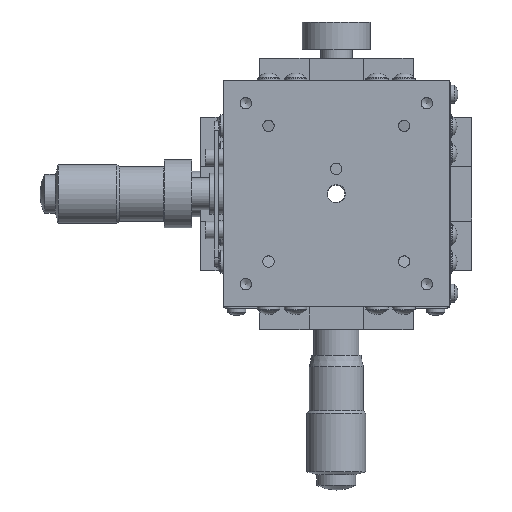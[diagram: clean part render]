
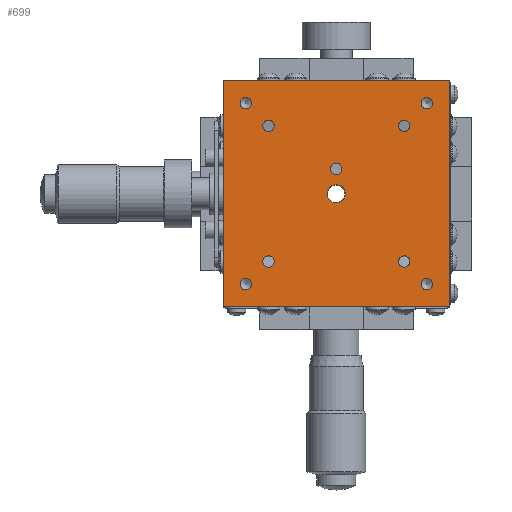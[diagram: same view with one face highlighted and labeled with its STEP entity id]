
A CAD part, top view. The second image highlights one B-rep face of the part: STEP entity #699.
In plain terms, the highlighted planar face has unit normal (0, 0, 1).
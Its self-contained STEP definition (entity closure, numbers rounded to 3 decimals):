
#699 = ADVANCED_FACE( '', ( #1743, #1744, #1745, #1746, #1747, #1748, #1749, #1750, #1751, #1752, #1753 ), #1754, .T. );
#1743 = FACE_BOUND( '', #2995, .T. );
#1744 = FACE_BOUND( '', #2996, .T. );
#1745 = FACE_BOUND( '', #2997, .T. );
#1746 = FACE_BOUND( '', #2998, .T. );
#1747 = FACE_BOUND( '', #2999, .T. );
#1748 = FACE_BOUND( '', #3000, .T. );
#1749 = FACE_BOUND( '', #3001, .T. );
#1750 = FACE_BOUND( '', #3002, .T. );
#1751 = FACE_BOUND( '', #3003, .T. );
#1752 = FACE_BOUND( '', #3004, .T. );
#1753 = FACE_OUTER_BOUND( '', #3005, .T. );
#1754 = PLANE( '', #3006 );
#2995 = EDGE_LOOP( '', ( #6085 ) );
#2996 = EDGE_LOOP( '', ( #6086 ) );
#2997 = EDGE_LOOP( '', ( #6087 ) );
#2998 = EDGE_LOOP( '', ( #6088 ) );
#2999 = EDGE_LOOP( '', ( #6089 ) );
#3000 = EDGE_LOOP( '', ( #6090 ) );
#3001 = EDGE_LOOP( '', ( #6091 ) );
#3002 = EDGE_LOOP( '', ( #6092 ) );
#3003 = EDGE_LOOP( '', ( #6093 ) );
#3004 = EDGE_LOOP( '', ( #6094 ) );
#3005 = EDGE_LOOP( '', ( #6095, #6096, #6097, #6098 ) );
#3006 = AXIS2_PLACEMENT_3D( '', #6099, #6100, #6101 );
#6085 = ORIENTED_EDGE( '', *, *, #7701, .T. );
#6086 = ORIENTED_EDGE( '', *, *, #7702, .F. );
#6087 = ORIENTED_EDGE( '', *, *, #7703, .T. );
#6088 = ORIENTED_EDGE( '', *, *, #7704, .T. );
#6089 = ORIENTED_EDGE( '', *, *, #7705, .T. );
#6090 = ORIENTED_EDGE( '', *, *, #7706, .T. );
#6091 = ORIENTED_EDGE( '', *, *, #7707, .T. );
#6092 = ORIENTED_EDGE( '', *, *, #7708, .T. );
#6093 = ORIENTED_EDGE( '', *, *, #7709, .T. );
#6094 = ORIENTED_EDGE( '', *, *, #7710, .T. );
#6095 = ORIENTED_EDGE( '', *, *, #7711, .F. );
#6096 = ORIENTED_EDGE( '', *, *, #7699, .F. );
#6097 = ORIENTED_EDGE( '', *, *, #7712, .F. );
#6098 = ORIENTED_EDGE( '', *, *, #7713, .F. );
#6099 = CARTESIAN_POINT( '', ( 0., 0., 36. ) );
#6100 = DIRECTION( '', ( 0., 0., 1. ) );
#6101 = DIRECTION( '', ( 1., 0., 0. ) );
#7699 = EDGE_CURVE( '', #9296, #9298, #9299, .T. );
#7701 = EDGE_CURVE( '', #9301, #9301, #9302, .T. );
#7702 = EDGE_CURVE( '', #9303, #9303, #9304, .T. );
#7703 = EDGE_CURVE( '', #9305, #9305, #9306, .T. );
#7704 = EDGE_CURVE( '', #9307, #9307, #9308, .T. );
#7705 = EDGE_CURVE( '', #9309, #9309, #9310, .T. );
#7706 = EDGE_CURVE( '', #9311, #9311, #9312, .T. );
#7707 = EDGE_CURVE( '', #9313, #9313, #9314, .T. );
#7708 = EDGE_CURVE( '', #9315, #9315, #9316, .T. );
#7709 = EDGE_CURVE( '', #9317, #9317, #9318, .T. );
#7710 = EDGE_CURVE( '', #9319, #9319, #9320, .T. );
#7711 = EDGE_CURVE( '', #9298, #9321, #9322, .T. );
#7712 = EDGE_CURVE( '', #9323, #9296, #9324, .T. );
#7713 = EDGE_CURVE( '', #9321, #9323, #9325, .T. );
#9296 = VERTEX_POINT( '', #12271 );
#9298 = VERTEX_POINT( '', #12274 );
#9299 = LINE( '', #12275, #12276 );
#9301 = VERTEX_POINT( '', #12279 );
#9302 = CIRCLE( '', #12280, 2. );
#9303 = VERTEX_POINT( '', #12281 );
#9304 = CIRCLE( '', #12282, 1.25 );
#9305 = VERTEX_POINT( '', #12283 );
#9306 = CIRCLE( '', #12284, 1.25 );
#9307 = VERTEX_POINT( '', #12285 );
#9308 = CIRCLE( '', #12286, 1.25 );
#9309 = VERTEX_POINT( '', #12287 );
#9310 = CIRCLE( '', #12288, 1.25 );
#9311 = VERTEX_POINT( '', #12289 );
#9312 = CIRCLE( '', #12290, 1.25 );
#9313 = VERTEX_POINT( '', #12291 );
#9314 = CIRCLE( '', #12292, 1.25 );
#9315 = VERTEX_POINT( '', #12293 );
#9316 = CIRCLE( '', #12294, 1.25 );
#9317 = VERTEX_POINT( '', #12295 );
#9318 = CIRCLE( '', #12296, 1.25 );
#9319 = VERTEX_POINT( '', #12297 );
#9320 = CIRCLE( '', #12298, 1.25 );
#9321 = VERTEX_POINT( '', #12299 );
#9322 = LINE( '', #12300, #12301 );
#9323 = VERTEX_POINT( '', #12302 );
#9324 = LINE( '', #12303, #12304 );
#9325 = LINE( '', #12305, #12306 );
#12271 = CARTESIAN_POINT( '', ( 25., 25., 36. ) );
#12274 = CARTESIAN_POINT( '', ( 25., -25., 36. ) );
#12275 = CARTESIAN_POINT( '', ( 25., 0., 36. ) );
#12276 = VECTOR( '', #14312, 1000. );
#12279 = CARTESIAN_POINT( '', ( 2., 0., 36. ) );
#12280 = AXIS2_PLACEMENT_3D( '', #14314, #14315, #14316 );
#12281 = CARTESIAN_POINT( '', ( 1.25, 5.5, 36. ) );
#12282 = AXIS2_PLACEMENT_3D( '', #14317, #14318, #14319 );
#12283 = CARTESIAN_POINT( '', ( 16.25, -15., 36. ) );
#12284 = AXIS2_PLACEMENT_3D( '', #14320, #14321, #14322 );
#12285 = CARTESIAN_POINT( '', ( -13.75, -15., 36. ) );
#12286 = AXIS2_PLACEMENT_3D( '', #14323, #14324, #14325 );
#12287 = CARTESIAN_POINT( '', ( -13.75, 15., 36. ) );
#12288 = AXIS2_PLACEMENT_3D( '', #14326, #14327, #14328 );
#12289 = CARTESIAN_POINT( '', ( 16.25, 15., 36. ) );
#12290 = AXIS2_PLACEMENT_3D( '', #14329, #14330, #14331 );
#12291 = CARTESIAN_POINT( '', ( 21.25, -20., 36. ) );
#12292 = AXIS2_PLACEMENT_3D( '', #14332, #14333, #14334 );
#12293 = CARTESIAN_POINT( '', ( -18.75, -20., 36. ) );
#12294 = AXIS2_PLACEMENT_3D( '', #14335, #14336, #14337 );
#12295 = CARTESIAN_POINT( '', ( -18.75, 20., 36. ) );
#12296 = AXIS2_PLACEMENT_3D( '', #14338, #14339, #14340 );
#12297 = CARTESIAN_POINT( '', ( 21.25, 20., 36. ) );
#12298 = AXIS2_PLACEMENT_3D( '', #14341, #14342, #14343 );
#12299 = CARTESIAN_POINT( '', ( -25., -25., 36. ) );
#12300 = CARTESIAN_POINT( '', ( 0., -25., 36. ) );
#12301 = VECTOR( '', #14344, 1000. );
#12302 = CARTESIAN_POINT( '', ( -25., 25., 36. ) );
#12303 = CARTESIAN_POINT( '', ( 0., 25., 36. ) );
#12304 = VECTOR( '', #14345, 1000. );
#12305 = CARTESIAN_POINT( '', ( -25., 0., 36. ) );
#12306 = VECTOR( '', #14346, 1000. );
#14312 = DIRECTION( '', ( 0., -1., 0. ) );
#14314 = CARTESIAN_POINT( '', ( 0., 0., 36. ) );
#14315 = DIRECTION( '', ( 0., 0., -1. ) );
#14316 = DIRECTION( '', ( 1., 0., 0. ) );
#14317 = CARTESIAN_POINT( '', ( 0., 5.5, 36. ) );
#14318 = DIRECTION( '', ( 0., 0., 1. ) );
#14319 = DIRECTION( '', ( 1., 0., 0. ) );
#14320 = CARTESIAN_POINT( '', ( 15., -15., 36. ) );
#14321 = DIRECTION( '', ( 0., 0., -1. ) );
#14322 = DIRECTION( '', ( 1., 0., 0. ) );
#14323 = CARTESIAN_POINT( '', ( -15., -15., 36. ) );
#14324 = DIRECTION( '', ( 0., 0., -1. ) );
#14325 = DIRECTION( '', ( 1., 0., 0. ) );
#14326 = CARTESIAN_POINT( '', ( -15., 15., 36. ) );
#14327 = DIRECTION( '', ( 0., 0., -1. ) );
#14328 = DIRECTION( '', ( 1., 0., 0. ) );
#14329 = CARTESIAN_POINT( '', ( 15., 15., 36. ) );
#14330 = DIRECTION( '', ( 0., 0., -1. ) );
#14331 = DIRECTION( '', ( 1., 0., 0. ) );
#14332 = CARTESIAN_POINT( '', ( 20., -20., 36. ) );
#14333 = DIRECTION( '', ( 0., 0., -1. ) );
#14334 = DIRECTION( '', ( 1., 0., 0. ) );
#14335 = CARTESIAN_POINT( '', ( -20., -20., 36. ) );
#14336 = DIRECTION( '', ( 0., 0., -1. ) );
#14337 = DIRECTION( '', ( 1., 0., 0. ) );
#14338 = CARTESIAN_POINT( '', ( -20., 20., 36. ) );
#14339 = DIRECTION( '', ( 0., 0., -1. ) );
#14340 = DIRECTION( '', ( 1., 0., 0. ) );
#14341 = CARTESIAN_POINT( '', ( 20., 20., 36. ) );
#14342 = DIRECTION( '', ( 0., 0., -1. ) );
#14343 = DIRECTION( '', ( 1., 0., 0. ) );
#14344 = DIRECTION( '', ( -1., 0., 0. ) );
#14345 = DIRECTION( '', ( 1., 0., 0. ) );
#14346 = DIRECTION( '', ( 0., 1., 0. ) );
